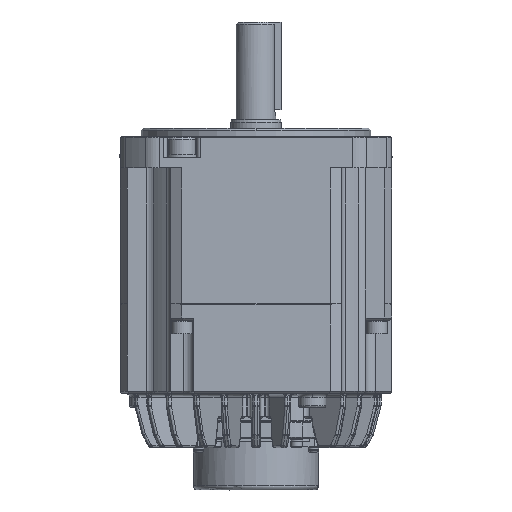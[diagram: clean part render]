
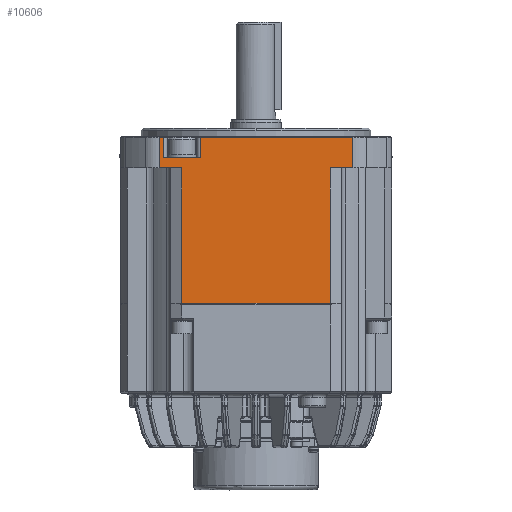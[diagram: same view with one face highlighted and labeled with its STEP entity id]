
A CAD part, front view. The second image highlights one B-rep face of the part: STEP entity #10606.
In plain terms, the highlighted planar face has unit normal (0, -1, 0).
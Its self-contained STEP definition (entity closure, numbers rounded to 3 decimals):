
#1059 = VECTOR ( 'NONE', #106608, 1000. ) ;
#1069 = ORIENTED_EDGE ( 'NONE', *, *, #138897, .T. ) ;
#1650 = VERTEX_POINT ( 'NONE', #136390 ) ;
#4738 = VERTEX_POINT ( 'NONE', #28240 ) ;
#6328 = LINE ( 'NONE', #157932, #97924 ) ;
#8040 = EDGE_CURVE ( 'NONE', #148078, #146877, #6328, .T. ) ;
#8214 = VECTOR ( 'NONE', #79124, 1000. ) ;
#8766 = EDGE_CURVE ( 'NONE', #92187, #48645, #43719, .T. ) ;
#9943 = ORIENTED_EDGE ( 'NONE', *, *, #8040, .T. ) ;
#10138 = EDGE_CURVE ( 'NONE', #90311, #141789, #62834, .T. ) ;
#10366 = EDGE_CURVE ( 'NONE', #4738, #100147, #146049, .T. ) ;
#10606 = ADVANCED_FACE ( 'NONE', ( #126905 ), #48558, .T. ) ;
#11314 = CARTESIAN_POINT ( 'NONE',  ( 85.501, -15., -10. ) ) ;
#11368 = ORIENTED_EDGE ( 'NONE', *, *, #10366, .T. ) ;
#11420 = VERTEX_POINT ( 'NONE', #76908 ) ;
#11640 = VECTOR ( 'NONE', #98523, 1000. ) ;
#11978 = ORIENTED_EDGE ( 'NONE', *, *, #14512, .T. ) ;
#12063 = EDGE_CURVE ( 'NONE', #50916, #100147, #124721, .T. ) ;
#14360 = CARTESIAN_POINT ( 'NONE',  ( 85.501, -15., -80. ) ) ;
#14512 = EDGE_CURVE ( 'NONE', #50916, #148078, #42954, .T. ) ;
#19157 = CARTESIAN_POINT ( 'NONE',  ( 85.501, -15., -10. ) ) ;
#22734 = ORIENTED_EDGE ( 'NONE', *, *, #108142, .T. ) ;
#22850 = ORIENTED_EDGE ( 'NONE', *, *, #52551, .T. ) ;
#23377 = VECTOR ( 'NONE', #96608, 1000. ) ;
#25610 = ORIENTED_EDGE ( 'NONE', *, *, #135858, .T. ) ;
#26878 = DIRECTION ( 'NONE',  ( 1., 0., 0. ) ) ;
#28240 = CARTESIAN_POINT ( 'NONE',  ( 85.501, -15., -15. ) ) ;
#29472 = VECTOR ( 'NONE', #143816, 1000. ) ;
#31649 = DIRECTION ( 'NONE',  ( -1., 0., 0. ) ) ;
#34725 = CARTESIAN_POINT ( 'NONE',  ( 5.5, -15., -10. ) ) ;
#40904 = ORIENTED_EDGE ( 'NONE', *, *, #54205, .T. ) ;
#42788 = ORIENTED_EDGE ( 'NONE', *, *, #155046, .T. ) ;
#42954 = LINE ( 'NONE', #100692, #101388 ) ;
#43719 = LINE ( 'NONE', #109478, #138714 ) ;
#46033 = LINE ( 'NONE', #19157, #108301 ) ;
#46901 = VECTOR ( 'NONE', #92395, 1000. ) ;
#47052 = VERTEX_POINT ( 'NONE', #34725 ) ;
#48221 = DIRECTION ( 'NONE',  ( 0., 0., -1. ) ) ;
#48244 = DIRECTION ( 'NONE',  ( 0., -1., 0. ) ) ;
#48558 = PLANE ( 'NONE',  #107143 ) ;
#48593 = CARTESIAN_POINT ( 'NONE',  ( 85.501, -15., -80. ) ) ;
#48645 = VERTEX_POINT ( 'NONE', #151435 ) ;
#49212 = DIRECTION ( 'NONE',  ( 0., 0., -1. ) ) ;
#50916 = VERTEX_POINT ( 'NONE', #78400 ) ;
#52551 = EDGE_CURVE ( 'NONE', #141789, #11420, #113021, .T. ) ;
#53918 = VECTOR ( 'NONE', #49212, 1000. ) ;
#54205 = EDGE_CURVE ( 'NONE', #143356, #4738, #103743, .T. ) ;
#54783 = CARTESIAN_POINT ( 'NONE',  ( 14.499, -15., -80. ) ) ;
#57788 = LINE ( 'NONE', #123020, #53918 ) ;
#58978 = CARTESIAN_POINT ( 'NONE',  ( 23.5, -15., -10. ) ) ;
#61945 = ORIENTED_EDGE ( 'NONE', *, *, #10138, .T. ) ;
#62834 = LINE ( 'NONE', #105553, #153760 ) ;
#63399 = LINE ( 'NONE', #94131, #1059 ) ;
#64984 = DIRECTION ( 'NONE',  ( 1., 0., 0. ) ) ;
#65601 = CARTESIAN_POINT ( 'NONE',  ( 109.85, -15., -15. ) ) ;
#67118 = CARTESIAN_POINT ( 'NONE',  ( 85.501, -15., -80. ) ) ;
#70908 = EDGE_LOOP ( 'NONE', ( #42788, #94062, #1069, #61945, #22850, #125438, #127999, #40904, #11368, #99521, #11978, #9943, #22734, #127894, #25610 ) ) ;
#76908 = CARTESIAN_POINT ( 'NONE',  ( 14.499, -15., -80. ) ) ;
#78153 = VERTEX_POINT ( 'NONE', #81432 ) ;
#78400 = CARTESIAN_POINT ( 'NONE',  ( 96.465, -15., -0.3 ) ) ;
#79124 = DIRECTION ( 'NONE',  ( 0., 0., 1. ) ) ;
#81432 = CARTESIAN_POINT ( 'NONE',  ( 16.289, -15., -10. ) ) ;
#82041 = CARTESIAN_POINT ( 'NONE',  ( 23.5, -15., -0.3 ) ) ;
#84241 = VECTOR ( 'NONE', #64984, 1000. ) ;
#89648 = LINE ( 'NONE', #146100, #23377 ) ;
#90311 = VERTEX_POINT ( 'NONE', #98401 ) ;
#92187 = VERTEX_POINT ( 'NONE', #113104 ) ;
#92395 = DIRECTION ( 'NONE',  ( 0., 0., -1. ) ) ;
#94062 = ORIENTED_EDGE ( 'NONE', *, *, #8766, .T. ) ;
#94131 = CARTESIAN_POINT ( 'NONE',  ( 85.501, -15., -80. ) ) ;
#96608 = DIRECTION ( 'NONE',  ( 0., 0., 1. ) ) ;
#97924 = VECTOR ( 'NONE', #155826, 1000. ) ;
#97998 = CARTESIAN_POINT ( 'NONE',  ( 85.501, -15., -10. ) ) ;
#98401 = CARTESIAN_POINT ( 'NONE',  ( 3.535, -15., -15. ) ) ;
#98523 = DIRECTION ( 'NONE',  ( -1., 0., 0. ) ) ;
#99521 = ORIENTED_EDGE ( 'NONE', *, *, #12063, .F. ) ;
#100147 = VERTEX_POINT ( 'NONE', #127209 ) ;
#100692 = CARTESIAN_POINT ( 'NONE',  ( 59.983, -15., -0.3 ) ) ;
#101388 = VECTOR ( 'NONE', #102228, 1000. ) ;
#102228 = DIRECTION ( 'NONE',  ( -1., 0., 0. ) ) ;
#103743 = LINE ( 'NONE', #67118, #8214 ) ;
#105219 = DIRECTION ( 'NONE',  ( 1., 0., 0. ) ) ;
#105553 = CARTESIAN_POINT ( 'NONE',  ( 109.85, -15., -15. ) ) ;
#106551 = CARTESIAN_POINT ( 'NONE',  ( 12.711, -15., -10. ) ) ;
#106608 = DIRECTION ( 'NONE',  ( 1., 0., 0. ) ) ;
#107143 = AXIS2_PLACEMENT_3D ( 'NONE', #48593, #48244, #48221 ) ;
#107150 = LINE ( 'NONE', #11314, #11640 ) ;
#108142 = EDGE_CURVE ( 'NONE', #146877, #78153, #107150, .T. ) ;
#108301 = VECTOR ( 'NONE', #31649, 1000. ) ;
#109087 = CARTESIAN_POINT ( 'NONE',  ( 14.499, -15., -15. ) ) ;
#109478 = CARTESIAN_POINT ( 'NONE',  ( 4.517, -15., -0.3 ) ) ;
#109678 = DIRECTION ( 'NONE',  ( -1., 0., 0. ) ) ;
#113021 = LINE ( 'NONE', #54783, #46901 ) ;
#113104 = CARTESIAN_POINT ( 'NONE',  ( 5.5, -15., -0.3 ) ) ;
#114949 = EDGE_CURVE ( 'NONE', #1650, #143356, #63399, .T. ) ;
#122815 = DIRECTION ( 'NONE',  ( -1., 0., 0. ) ) ;
#123020 = CARTESIAN_POINT ( 'NONE',  ( 3.535, -15., -80. ) ) ;
#124344 = VECTOR ( 'NONE', #122815, 1000. ) ;
#124721 = LINE ( 'NONE', #144875, #29472 ) ;
#125438 = ORIENTED_EDGE ( 'NONE', *, *, #141028, .T. ) ;
#125464 = VECTOR ( 'NONE', #26878, 1000. ) ;
#126905 = FACE_OUTER_BOUND ( 'NONE', #70908, .T. ) ;
#127209 = CARTESIAN_POINT ( 'NONE',  ( 96.465, -15., -15. ) ) ;
#127894 = ORIENTED_EDGE ( 'NONE', *, *, #139860, .T. ) ;
#127999 = ORIENTED_EDGE ( 'NONE', *, *, #114949, .T. ) ;
#134363 = CARTESIAN_POINT ( 'NONE',  ( 85.501, -15., -80. ) ) ;
#135858 = EDGE_CURVE ( 'NONE', #151518, #47052, #156908, .T. ) ;
#136390 = CARTESIAN_POINT ( 'NONE',  ( 50., -15., -80. ) ) ;
#138714 = VECTOR ( 'NONE', #109678, 1000. ) ;
#138897 = EDGE_CURVE ( 'NONE', #48645, #90311, #57788, .T. ) ;
#139860 = EDGE_CURVE ( 'NONE', #78153, #151518, #46033, .T. ) ;
#141028 = EDGE_CURVE ( 'NONE', #11420, #1650, #157990, .T. ) ;
#141789 = VERTEX_POINT ( 'NONE', #109087 ) ;
#143356 = VERTEX_POINT ( 'NONE', #134363 ) ;
#143816 = DIRECTION ( 'NONE',  ( 0., 0., -1. ) ) ;
#144875 = CARTESIAN_POINT ( 'NONE',  ( 96.465, -15., -0.5 ) ) ;
#146049 = LINE ( 'NONE', #65601, #84241 ) ;
#146100 = CARTESIAN_POINT ( 'NONE',  ( 5.5, -15., -80. ) ) ;
#146877 = VERTEX_POINT ( 'NONE', #58978 ) ;
#148078 = VERTEX_POINT ( 'NONE', #82041 ) ;
#151435 = CARTESIAN_POINT ( 'NONE',  ( 3.535, -15., -0.3 ) ) ;
#151518 = VERTEX_POINT ( 'NONE', #106551 ) ;
#153760 = VECTOR ( 'NONE', #105219, 1000. ) ;
#155046 = EDGE_CURVE ( 'NONE', #47052, #92187, #89648, .T. ) ;
#155826 = DIRECTION ( 'NONE',  ( 0., 0., -1. ) ) ;
#156908 = LINE ( 'NONE', #97998, #124344 ) ;
#157932 = CARTESIAN_POINT ( 'NONE',  ( 23.5, -15., -80. ) ) ;
#157990 = LINE ( 'NONE', #14360, #125464 ) ;
